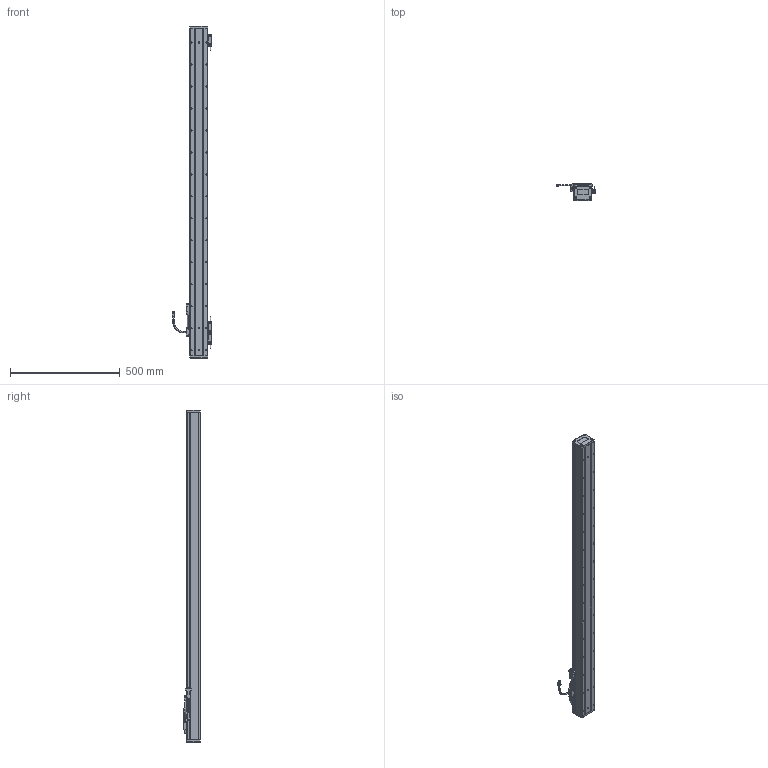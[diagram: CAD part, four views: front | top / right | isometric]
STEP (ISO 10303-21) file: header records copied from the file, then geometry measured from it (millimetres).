
FILE_DESCRIPTION(('Open CASCADE Model'),'2;1');
FILE_NAME('Open CASCADE Shape Model','2025-11-07T02:34:43',('Author'),( 'Open CASCADE'),'Open CASCADE STEP processor 7.6','Open CASCADE 7.6' ,'Unknown');
FILE_SCHEMA(('AUTOMOTIVE_DESIGN { 1 0 10303 214 1 1 1 1 }'));
Length unit declared in the file: millimetre
Products named in the file (24): Open CASCADE STEP translator 7.6 113; Open CASCADE STEP translator 7.6 113.1; Open CASCADE STEP translator 7.6 113.2; Open CASCADE STEP translator 7.6 113.3; Open CASCADE STEP translator 7.6 113.4; Open CASCADE STEP translator 7.6 113.5; Open CASCADE STEP translator 7.6 113.6; Open CASCADE STEP translator 7.6 113.7; Open CASCADE STEP translator 7.6 113.7.1; Open CASCADE STEP translator 7.6 113.7.1.1; Open CASCADE STEP translator 7.6 113.7.1.2; Open CASCADE STEP translator 7.6 113.8; Open CASCADE STEP translator 7.6 113.9; Open CASCADE STEP translator 7.6 113.10; Open CASCADE STEP translator 7.6 113.10.1; Open CASCADE STEP translator 7.6 113.10.1.1; Open CASCADE STEP translator 7.6 113.10.1.2; Open CASCADE STEP translator 7.6 113.10.1.3; Open CASCADE STEP translator 7.6 113.11; Open CASCADE STEP translator 7.6 113.12; Open CASCADE STEP translator 7.6 113.13; Open CASCADE STEP translator 7.6 113.14; Open CASCADE STEP translator 7.6 113.15; Open CASCADE STEP translator 7.6 113.16
Assembly tree (23 placements, depth 4):
  Open CASCADE STEP translator 7.6 113
    Open CASCADE STEP translator 7.6 113.1
    Open CASCADE STEP translator 7.6 113.2
    Open CASCADE STEP translator 7.6 113.3
    Open CASCADE STEP translator 7.6 113.4
    Open CASCADE STEP translator 7.6 113.5
    Open CASCADE STEP translator 7.6 113.6
    Open CASCADE STEP translator 7.6 113.7
      Open CASCADE STEP translator 7.6 113.7.1
        Open CASCADE STEP translator 7.6 113.7.1.1
        Open CASCADE STEP translator 7.6 113.7.1.2
    Open CASCADE STEP translator 7.6 113.8
    Open CASCADE STEP translator 7.6 113.9
    Open CASCADE STEP translator 7.6 113.10
      Open CASCADE STEP translator 7.6 113.10.1
        Open CASCADE STEP translator 7.6 113.10.1.1
        Open CASCADE STEP translator 7.6 113.10.1.2
        Open CASCADE STEP translator 7.6 113.10.1.3
    Open CASCADE STEP translator 7.6 113.11
    Open CASCADE STEP translator 7.6 113.12
    Open CASCADE STEP translator 7.6 113.13
    Open CASCADE STEP translator 7.6 113.14
    Open CASCADE STEP translator 7.6 113.15
    Open CASCADE STEP translator 7.6 113.16
Bounding box: 181.25 x 78 x 1510 mm (x, y, z)
Volume: 4433341.2 mm3; surface area: 926471.3 mm2
Topology: 19 solids, 19 shells, 1990 faces, 5061 edges, 3221 vertices
Faces by surface type: plane 1092, cylinder 696, cone 112, torus 54, bspline 30, sphere 6
Entity records: 138919 total; most frequent: CARTESIAN_POINT 37729, DIRECTION 19153, LINE 11794, VECTOR 11794, ORIENTED_EDGE 10024, PCURVE 10024, DEFINITIONAL_REPRESENTATION 10024, EDGE_CURVE 5012
